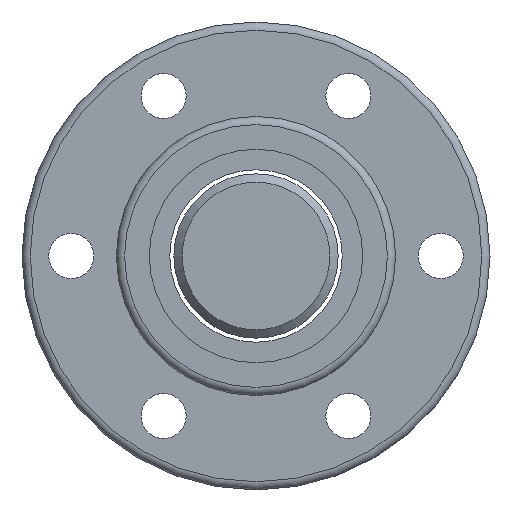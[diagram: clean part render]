
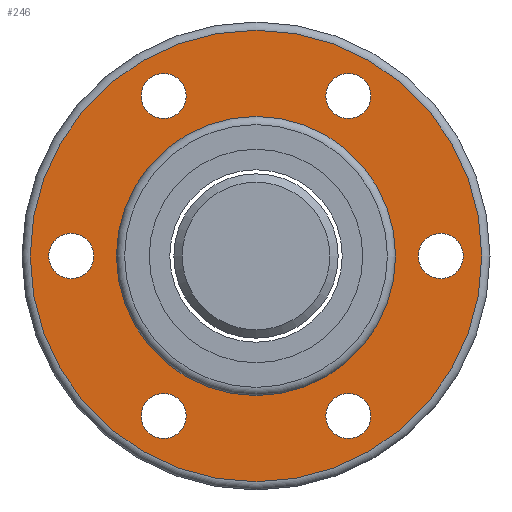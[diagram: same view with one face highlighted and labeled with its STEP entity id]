
A CAD part, left-side view. The second image highlights one B-rep face of the part: STEP entity #246.
In plain terms, the highlighted planar face has unit normal (-1, 0, 0).
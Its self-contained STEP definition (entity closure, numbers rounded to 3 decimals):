
#146=FACE_BOUND('',#349,.T.);
#147=FACE_BOUND('',#350,.T.);
#148=FACE_BOUND('',#351,.T.);
#149=FACE_BOUND('',#352,.T.);
#150=FACE_BOUND('',#353,.T.);
#151=FACE_BOUND('',#354,.T.);
#152=FACE_BOUND('',#356,.T.);
#246=ADVANCED_FACE('',(#146,#147,#148,#149,#150,#151,#322,#152),#299,.T.);
#299=PLANE('',#786);
#322=FACE_OUTER_BOUND('',#355,.T.);
#349=EDGE_LOOP('',(#471));
#350=EDGE_LOOP('',(#472));
#351=EDGE_LOOP('',(#473));
#352=EDGE_LOOP('',(#474));
#353=EDGE_LOOP('',(#475));
#354=EDGE_LOOP('',(#476));
#355=EDGE_LOOP('',(#477));
#356=EDGE_LOOP('',(#478));
#471=ORIENTED_EDGE('',*,*,#650,.F.);
#472=ORIENTED_EDGE('',*,*,#651,.F.);
#473=ORIENTED_EDGE('',*,*,#652,.F.);
#474=ORIENTED_EDGE('',*,*,#653,.F.);
#475=ORIENTED_EDGE('',*,*,#654,.F.);
#476=ORIENTED_EDGE('',*,*,#655,.F.);
#477=ORIENTED_EDGE('',*,*,#656,.T.);
#478=ORIENTED_EDGE('',*,*,#657,.F.);
#589=VERTEX_POINT('',#1137);
#590=VERTEX_POINT('',#1139);
#591=VERTEX_POINT('',#1141);
#592=VERTEX_POINT('',#1143);
#593=VERTEX_POINT('',#1145);
#594=VERTEX_POINT('',#1147);
#595=VERTEX_POINT('',#1149);
#596=VERTEX_POINT('',#1151);
#650=EDGE_CURVE('',#589,#589,#711,.T.);
#651=EDGE_CURVE('',#590,#590,#712,.T.);
#652=EDGE_CURVE('',#591,#591,#713,.T.);
#653=EDGE_CURVE('',#592,#592,#714,.T.);
#654=EDGE_CURVE('',#593,#593,#715,.T.);
#655=EDGE_CURVE('',#594,#594,#716,.T.);
#656=EDGE_CURVE('',#595,#595,#717,.T.);
#657=EDGE_CURVE('',#596,#596,#718,.T.);
#711=CIRCLE('',#778,2.75);
#712=CIRCLE('',#779,2.75);
#713=CIRCLE('',#780,2.75);
#714=CIRCLE('',#781,2.75);
#715=CIRCLE('',#782,2.75);
#716=CIRCLE('',#783,2.75);
#717=CIRCLE('',#784,27.5);
#718=CIRCLE('',#785,17.);
#778=AXIS2_PLACEMENT_3D('',#1136,#906,#907);
#779=AXIS2_PLACEMENT_3D('',#1138,#908,#909);
#780=AXIS2_PLACEMENT_3D('',#1140,#910,#911);
#781=AXIS2_PLACEMENT_3D('',#1142,#912,#913);
#782=AXIS2_PLACEMENT_3D('',#1144,#914,#915);
#783=AXIS2_PLACEMENT_3D('',#1146,#916,#917);
#784=AXIS2_PLACEMENT_3D('',#1148,#918,#919);
#785=AXIS2_PLACEMENT_3D('',#1150,#920,#921);
#786=AXIS2_PLACEMENT_3D('',#1152,#922,#923);
#906=DIRECTION('',(-1.,0.,0.));
#907=DIRECTION('',(0.,-1.,0.));
#908=DIRECTION('',(-1.,0.,0.));
#909=DIRECTION('',(0.,-1.,0.));
#910=DIRECTION('',(-1.,0.,0.));
#911=DIRECTION('',(0.,-1.,0.));
#912=DIRECTION('',(-1.,0.,0.));
#913=DIRECTION('',(0.,-1.,0.));
#914=DIRECTION('',(-1.,0.,0.));
#915=DIRECTION('',(0.,-1.,0.));
#916=DIRECTION('',(-1.,0.,0.));
#917=DIRECTION('',(0.,-1.,0.));
#918=DIRECTION('',(-1.,0.,0.));
#919=DIRECTION('',(0.,-1.,0.));
#920=DIRECTION('',(-1.,0.,0.));
#921=DIRECTION('',(0.,-1.,0.));
#922=DIRECTION('',(-1.,0.,0.));
#923=DIRECTION('',(0.,-1.,0.));
#1136=CARTESIAN_POINT('',(-26.,11.25,-19.486));
#1137=CARTESIAN_POINT('',(-26.,8.5,-19.486));
#1138=CARTESIAN_POINT('',(-26.,-11.25,-19.486));
#1139=CARTESIAN_POINT('',(-26.,-14.,-19.486));
#1140=CARTESIAN_POINT('',(-26.,-22.5,0.));
#1141=CARTESIAN_POINT('',(-26.,-25.25,0.));
#1142=CARTESIAN_POINT('',(-26.,-11.25,19.486));
#1143=CARTESIAN_POINT('',(-26.,-14.,19.486));
#1144=CARTESIAN_POINT('',(-26.,11.25,19.486));
#1145=CARTESIAN_POINT('',(-26.,8.5,19.486));
#1146=CARTESIAN_POINT('',(-26.,22.5,0.));
#1147=CARTESIAN_POINT('',(-26.,19.75,0.));
#1148=CARTESIAN_POINT('',(-26.,0.,0.));
#1149=CARTESIAN_POINT('',(-26.,-27.5,0.));
#1150=CARTESIAN_POINT('',(-26.,0.,0.));
#1151=CARTESIAN_POINT('',(-26.,-17.,0.));
#1152=CARTESIAN_POINT('',(-26.,22.25,0.));
